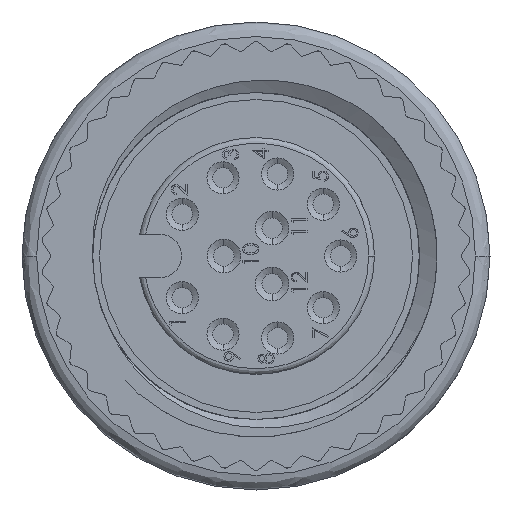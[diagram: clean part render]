
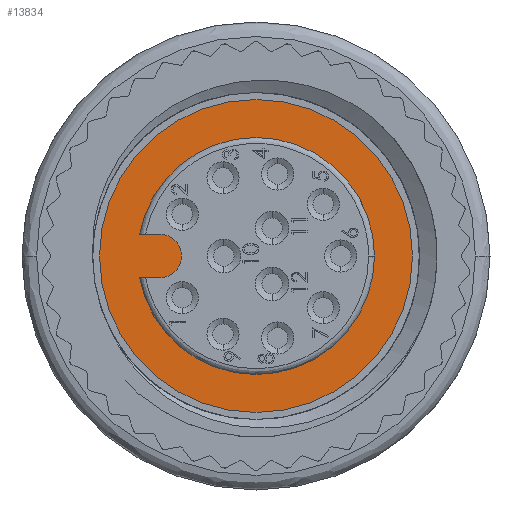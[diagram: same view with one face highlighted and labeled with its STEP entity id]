
A CAD part, left-side view. The second image highlights one B-rep face of the part: STEP entity #13834.
In plain terms, the highlighted planar face has unit normal (-1, 0, 0).
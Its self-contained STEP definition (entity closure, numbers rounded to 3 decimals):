
#406 = EDGE_CURVE ( 'NONE', #3450, #21737, #31811, .T. ) ;
#416 = CIRCLE ( 'NONE', #21164, 4.05 ) ;
#1958 = VERTEX_POINT ( 'NONE', #29795 ) ;
#2245 = DIRECTION ( 'NONE',  ( 0., 0., 1. ) ) ;
#3254 = DIRECTION ( 'NONE',  ( 0., 0., 1. ) ) ;
#3450 = VERTEX_POINT ( 'NONE', #13037 ) ;
#5015 = EDGE_CURVE ( 'NONE', #19908, #11528, #15502, .T. ) ;
#5189 = DIRECTION ( 'NONE',  ( 1., 0., 0. ) ) ;
#5671 = CIRCLE ( 'NONE', #26406, 0.75 ) ;
#5910 = ORIENTED_EDGE ( 'NONE', *, *, #32722, .F. ) ;
#7147 = ORIENTED_EDGE ( 'NONE', *, *, #25513, .T. ) ;
#7792 = LINE ( 'NONE', #27850, #21076 ) ;
#8340 = CARTESIAN_POINT ( 'NONE',  ( 8.4, 0., 0. ) ) ;
#8347 = DIRECTION ( 'NONE',  ( 0., 0., 1. ) ) ;
#8870 = CARTESIAN_POINT ( 'NONE',  ( 8.4, 0., 4.05 ) ) ;
#9484 = VERTEX_POINT ( 'NONE', #35975 ) ;
#9659 = DIRECTION ( 'NONE',  ( 0., 0., -1. ) ) ;
#10401 = CIRCLE ( 'NONE', #25812, 4.05 ) ;
#10757 = CARTESIAN_POINT ( 'NONE',  ( 8.4, 3.3, 0. ) ) ;
#11528 = VERTEX_POINT ( 'NONE', #15343 ) ;
#11662 = LINE ( 'NONE', #34265, #26733 ) ;
#12096 = PLANE ( 'NONE',  #22297 ) ;
#12238 = EDGE_CURVE ( 'NONE', #21737, #32007, #416, .T. ) ;
#12489 = DIRECTION ( 'NONE',  ( 1., 0., 0. ) ) ;
#12613 = CARTESIAN_POINT ( 'NONE',  ( 8.4, 3.98, 0.75 ) ) ;
#12998 = CARTESIAN_POINT ( 'NONE',  ( 8.4, 3.3, 0.75 ) ) ;
#13037 = CARTESIAN_POINT ( 'NONE',  ( 8.4, 0., -4.05 ) ) ;
#13159 = EDGE_LOOP ( 'NONE', ( #32736, #21630 ) ) ;
#13834 = ADVANCED_FACE ( 'NONE', ( #26199, #32282 ), #12096, .F. ) ;
#13920 = DIRECTION ( 'NONE',  ( 0., 0., 1. ) ) ;
#15343 = CARTESIAN_POINT ( 'NONE',  ( 8.4, 0., -5.35 ) ) ;
#15502 = CIRCLE ( 'NONE', #20260, 5.35 ) ;
#16332 = CARTESIAN_POINT ( 'NONE',  ( 8.4, 0., 0. ) ) ;
#17365 = DIRECTION ( 'NONE',  ( -1., 0., 0. ) ) ;
#18113 = DIRECTION ( 'NONE',  ( -1., 0., 0. ) ) ;
#18319 = CARTESIAN_POINT ( 'NONE',  ( 8.4, 0., 0. ) ) ;
#18663 = VERTEX_POINT ( 'NONE', #12998 ) ;
#18928 = DIRECTION ( 'NONE',  ( 0., 0., 1. ) ) ;
#19698 = DIRECTION ( 'NONE',  ( 0., 1., 0. ) ) ;
#19908 = VERTEX_POINT ( 'NONE', #27523 ) ;
#20260 = AXIS2_PLACEMENT_3D ( 'NONE', #16332, #5189, #18928 ) ;
#20592 = AXIS2_PLACEMENT_3D ( 'NONE', #23277, #17365, #3254 ) ;
#21076 = VECTOR ( 'NONE', #19698, 1000. ) ;
#21164 = AXIS2_PLACEMENT_3D ( 'NONE', #18319, #18113, #23868 ) ;
#21630 = ORIENTED_EDGE ( 'NONE', *, *, #22384, .F. ) ;
#21737 = VERTEX_POINT ( 'NONE', #8870 ) ;
#22084 = DIRECTION ( 'NONE',  ( 1., 0., 0. ) ) ;
#22297 = AXIS2_PLACEMENT_3D ( 'NONE', #23961, #12489, #9659 ) ;
#22384 = EDGE_CURVE ( 'NONE', #11528, #19908, #26418, .T. ) ;
#22858 = ORIENTED_EDGE ( 'NONE', *, *, #32762, .F. ) ;
#23277 = CARTESIAN_POINT ( 'NONE',  ( 8.4, 0., 0. ) ) ;
#23868 = DIRECTION ( 'NONE',  ( 0., 0., 1. ) ) ;
#23961 = CARTESIAN_POINT ( 'NONE',  ( 8.4, 4.05, 0. ) ) ;
#24641 = AXIS2_PLACEMENT_3D ( 'NONE', #36520, #33766, #8347 ) ;
#25055 = DIRECTION ( 'NONE',  ( -1., 0., 0. ) ) ;
#25513 = EDGE_CURVE ( 'NONE', #1958, #9484, #11662, .T. ) ;
#25812 = AXIS2_PLACEMENT_3D ( 'NONE', #8340, #25055, #13920 ) ;
#26199 = FACE_BOUND ( 'NONE', #34237, .T. ) ;
#26406 = AXIS2_PLACEMENT_3D ( 'NONE', #10757, #22084, #2245 ) ;
#26418 = CIRCLE ( 'NONE', #24641, 5.35 ) ;
#26733 = VECTOR ( 'NONE', #28720, 1000. ) ;
#27523 = CARTESIAN_POINT ( 'NONE',  ( 8.4, 0., 5.35 ) ) ;
#27850 = CARTESIAN_POINT ( 'NONE',  ( 8.4, 3.3, 0.75 ) ) ;
#28170 = EDGE_CURVE ( 'NONE', #18663, #32007, #7792, .T. ) ;
#28720 = DIRECTION ( 'NONE',  ( 0., -1., 0. ) ) ;
#29795 = CARTESIAN_POINT ( 'NONE',  ( 8.4, 3.98, -0.75 ) ) ;
#29980 = ORIENTED_EDGE ( 'NONE', *, *, #28170, .T. ) ;
#31811 = CIRCLE ( 'NONE', #20592, 4.05 ) ;
#32007 = VERTEX_POINT ( 'NONE', #12613 ) ;
#32282 = FACE_OUTER_BOUND ( 'NONE', #13159, .T. ) ;
#32722 = EDGE_CURVE ( 'NONE', #18663, #9484, #5671, .T. ) ;
#32736 = ORIENTED_EDGE ( 'NONE', *, *, #5015, .F. ) ;
#32762 = EDGE_CURVE ( 'NONE', #1958, #3450, #10401, .T. ) ;
#33766 = DIRECTION ( 'NONE',  ( 1., 0., 0. ) ) ;
#34237 = EDGE_LOOP ( 'NONE', ( #7147, #5910, #29980, #35783, #34715, #22858 ) ) ;
#34265 = CARTESIAN_POINT ( 'NONE',  ( 8.4, 3.3, -0.75 ) ) ;
#34715 = ORIENTED_EDGE ( 'NONE', *, *, #406, .F. ) ;
#35783 = ORIENTED_EDGE ( 'NONE', *, *, #12238, .F. ) ;
#35975 = CARTESIAN_POINT ( 'NONE',  ( 8.4, 3.3, -0.75 ) ) ;
#36520 = CARTESIAN_POINT ( 'NONE',  ( 8.4, 0., 0. ) ) ;
